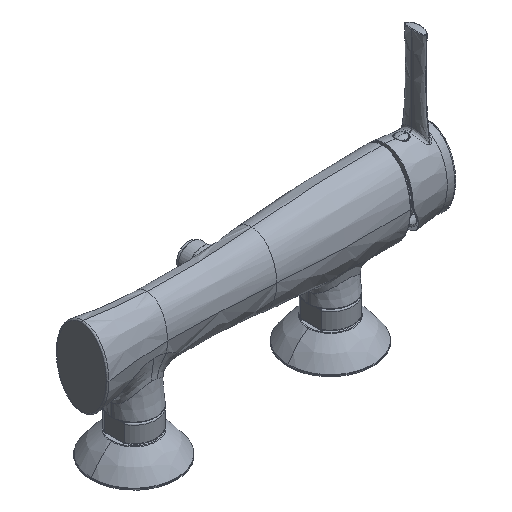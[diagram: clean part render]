
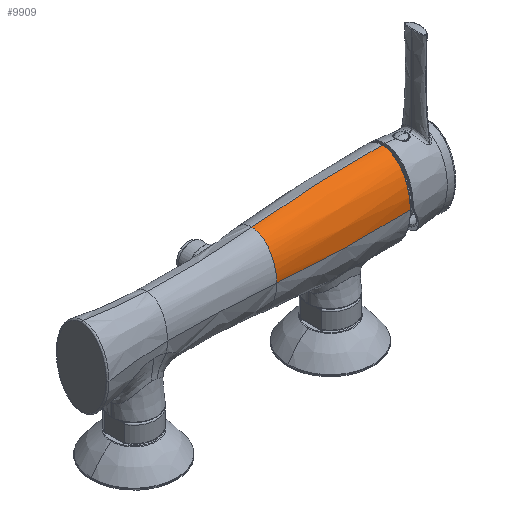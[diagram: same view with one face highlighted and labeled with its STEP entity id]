
A CAD part, isometric view. The second image highlights one B-rep face of the part: STEP entity #9909.
In plain terms, the highlighted free-form (B-spline) face has degree [3, 3] with [7, 5] control points.
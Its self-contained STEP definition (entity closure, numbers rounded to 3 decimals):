
#1167=CARTESIAN_POINT('',(114.518,-21.518,
0.));
#1509=CARTESIAN_POINT('',(64.928,0.,31.293));
#1510=CARTESIAN_POINT('',(81.442,0.,32.043));
#1511=CARTESIAN_POINT('',(97.98,0.,
32.282));
#1512=CARTESIAN_POINT('',(114.508,0.,
32.008));
#1514=CARTESIAN_POINT('',(64.928,0.,31.293));
#1515=CARTESIAN_POINT('',(48.25,0.,30.535));
#1516=CARTESIAN_POINT('',(31.596,0.,29.255));
#1517=CARTESIAN_POINT('',(15.,0.,27.456));
#1533=CARTESIAN_POINT('',(114.518,-21.518,
0.));
#1534=CARTESIAN_POINT('',(114.518,-21.518,
0.457));
#1535=CARTESIAN_POINT('',(114.518,-21.505,1.373));
#1536=CARTESIAN_POINT('',(114.518,-21.444,2.75));
#1537=CARTESIAN_POINT('',(114.518,-21.344,4.124));
#1538=CARTESIAN_POINT('',(114.518,-21.204,5.487));
#1539=CARTESIAN_POINT('',(114.517,-21.026,6.836));
#1540=CARTESIAN_POINT('',(114.517,-20.811,8.164));
#1541=CARTESIAN_POINT('',(114.517,-20.56,9.465));
#1542=CARTESIAN_POINT('',(114.516,-20.277,10.734));
#1543=CARTESIAN_POINT('',(114.515,-19.961,11.971));
#1544=CARTESIAN_POINT('',(114.515,-19.615,13.175));
#1545=CARTESIAN_POINT('',(114.514,-19.24,14.344));
#1546=CARTESIAN_POINT('',(114.514,-18.838,15.477));
#1547=CARTESIAN_POINT('',(114.513,-18.411,16.574));
#1548=CARTESIAN_POINT('',(114.513,-17.961,17.631));
#1549=CARTESIAN_POINT('',(114.512,-17.49,18.648));
#1550=CARTESIAN_POINT('',(114.512,-17.002,19.622));
#1551=CARTESIAN_POINT('',(114.511,-16.498,20.552));
#1552=CARTESIAN_POINT('',(114.511,-15.981,21.437));
#1553=CARTESIAN_POINT('',(114.51,-15.452,22.279));
#1554=CARTESIAN_POINT('',(114.51,-14.913,23.077));
#1555=CARTESIAN_POINT('',(114.509,-14.364,23.834));
#1556=CARTESIAN_POINT('',(114.509,-13.807,24.551));
#1557=CARTESIAN_POINT('',(114.509,-13.241,25.23));
#1558=CARTESIAN_POINT('',(114.509,-12.67,25.871));
#1559=CARTESIAN_POINT('',(114.508,-12.093,26.474));
#1560=CARTESIAN_POINT('',(114.508,-11.513,27.04));
#1561=CARTESIAN_POINT('',(114.508,-10.931,27.57));
#1562=CARTESIAN_POINT('',(114.508,-10.348,28.064));
#1563=CARTESIAN_POINT('',(114.508,-9.766,28.522));
#1564=CARTESIAN_POINT('',(114.508,-9.186,28.946));
#1565=CARTESIAN_POINT('',(114.508,-8.608,29.338));
#1566=CARTESIAN_POINT('',(114.508,-8.029,29.699));
#1567=CARTESIAN_POINT('',(114.508,-7.451,30.03));
#1568=CARTESIAN_POINT('',(114.508,-6.872,30.334));
#1569=CARTESIAN_POINT('',(114.508,-6.294,30.61));
#1570=CARTESIAN_POINT('',(114.508,-5.716,30.86));
#1571=CARTESIAN_POINT('',(114.508,-5.138,31.084));
#1572=CARTESIAN_POINT('',(114.508,-4.56,31.282));
#1573=CARTESIAN_POINT('',(114.508,-3.984,31.456));
#1574=CARTESIAN_POINT('',(114.508,-3.41,31.605));
#1575=CARTESIAN_POINT('',(114.508,-2.836,31.731));
#1576=CARTESIAN_POINT('',(114.508,-2.265,31.833));
#1577=CARTESIAN_POINT('',(114.508,-1.695,31.912));
#1578=CARTESIAN_POINT('',(114.508,-1.128,31.968));
#1579=CARTESIAN_POINT('',(114.508,-0.563,
32.001));
#1580=CARTESIAN_POINT('',(114.508,-0.187,
32.008));
#1581=CARTESIAN_POINT('',(114.508,0.,
32.008));
#1583=CARTESIAN_POINT('',(15.,-18.997,0.));
#1584=CARTESIAN_POINT('',(31.621,-20.457,0.));
#1585=CARTESIAN_POINT('',(64.79,-22.325,
0.));
#1586=CARTESIAN_POINT('',(98.008,-22.128,
0.));
#1587=CARTESIAN_POINT('',(114.518,-21.518,
0.));
#1589=CARTESIAN_POINT('',(15.,0.,27.456));
#1590=CARTESIAN_POINT('',(15.,-2.782,27.456));
#1591=CARTESIAN_POINT('',(15.,-7.939,25.74));
#1592=CARTESIAN_POINT('',(15.,-14.02,19.305));
#1593=CARTESIAN_POINT('',(15.,-18.014,10.296));
#1594=CARTESIAN_POINT('',(15.,-18.997,3.432));
#1595=CARTESIAN_POINT('',(15.,-18.997,0.));
#1602=CARTESIAN_POINT('',(15.,-18.997,0.));
#1664=CARTESIAN_POINT('',(15.,0.,27.456));
#7944=VERTEX_POINT('',#1602);
#7946=VERTEX_POINT('',#1664);
#7970=VERTEX_POINT('',#1514);
#7986=VERTEX_POINT('',#1167);
#7989=VERTEX_POINT('',#1581);
#9864=CARTESIAN_POINT('',(115.515,0.37,31.986));
#9865=CARTESIAN_POINT('',(98.651,0.375,32.287));
#9866=CARTESIAN_POINT('',(64.742,0.391,31.818));
#9867=CARTESIAN_POINT('',(30.933,0.384,29.199));
#9868=CARTESIAN_POINT('',(14.009,0.366,27.343));
#9869=CARTESIAN_POINT('',(115.514,-2.566,32.062));
#9870=CARTESIAN_POINT('',(98.654,-2.603,32.366));
#9871=CARTESIAN_POINT('',(64.75,-2.712,31.902));
#9872=CARTESIAN_POINT('',(30.932,-2.667,29.281));
#9873=CARTESIAN_POINT('',(14.009,-2.549,27.422));
#9874=CARTESIAN_POINT('',(115.514,-8.333,30.431));
#9875=CARTESIAN_POINT('',(98.66,-8.474,30.667));
#9876=CARTESIAN_POINT('',(64.764,-8.681,30.103));
#9877=CARTESIAN_POINT('',(30.933,-8.287,27.518));
#9878=CARTESIAN_POINT('',(14.009,-7.824,25.73));
#9879=CARTESIAN_POINT('',(115.514,-15.588,23.213));
#9880=CARTESIAN_POINT('',(98.667,-15.936,23.323));
#9881=CARTESIAN_POINT('',(64.779,-16.127,22.723));
#9882=CARTESIAN_POINT('',(30.944,-14.968,20.619));
#9883=CARTESIAN_POINT('',(14.009,-13.961,19.224));
#9884=CARTESIAN_POINT('',(115.514,-20.417,12.444));
#9885=CARTESIAN_POINT('',(98.671,-20.979,12.475));
#9886=CARTESIAN_POINT('',(64.788,-21.169,12.088));
#9887=CARTESIAN_POINT('',(30.955,-19.389,10.911));
#9888=CARTESIAN_POINT('',(14.008,-17.977,10.15));
#9889=CARTESIAN_POINT('',(115.514,-21.518,3.905));
#9890=CARTESIAN_POINT('',(98.672,-22.164,3.915));
#9891=CARTESIAN_POINT('',(64.79,-22.387,3.794));
#9892=CARTESIAN_POINT('',(30.958,-20.455,3.425));
#9893=CARTESIAN_POINT('',(14.008,-18.942,3.186));
#9894=CARTESIAN_POINT('',(115.514,-21.479,
-0.424));
#9895=CARTESIAN_POINT('',(98.672,-22.122,
-0.425));
#9896=CARTESIAN_POINT('',(64.79,-22.344,
-0.412));
#9897=CARTESIAN_POINT('',(30.958,-20.417,
-0.372));
#9898=CARTESIAN_POINT('',(14.008,-18.908,
-0.346));
#9899=B_SPLINE_SURFACE_WITH_KNOTS('',3,3,((#9864,#9865,#9866,#9867,#9868),
(#9869,#9870,#9871,#9872,#9873),(#9874,#9875,#9876,#9877,#9878),(#9879,#9880,
#9881,#9882,#9883),(#9884,#9885,#9886,#9887,#9888),(#9889,#9890,#9891,#9892,
#9893),(#9894,#9895,#9896,#9897,#9898)),.UNSPECIFIED.,.F.,.F.,.F.,(4,1,1,1,4),
(4,1,4),(-0.005,0.125,0.25,0.375,0.504),(
-0.002,0.217,0.439),.UNSPECIFIED.);
#9901=ORIENTED_EDGE('',*,*,#9900,.F.);
#9902=ORIENTED_EDGE('',*,*,#9616,.F.);
#9904=ORIENTED_EDGE('',*,*,#9903,.F.);
#9905=ORIENTED_EDGE('',*,*,#9856,.F.);
#9906=ORIENTED_EDGE('',*,*,#9854,.T.);
#9907=EDGE_LOOP('',(#9901,#9902,#9904,#9905,#9906));
#9908=FACE_OUTER_BOUND('',#9907,.F.);
#9909=ADVANCED_FACE('',(#9908),#9899,.F.);
#1513=B_SPLINE_CURVE_WITH_KNOTS('',3,(#1509,#1510,#1511,#1512),.UNSPECIFIED.,
.F.,.F.,(4,4),(0.,1.),.UNSPECIFIED.);
#1518=B_SPLINE_CURVE_WITH_KNOTS('',3,(#1514,#1515,#1516,#1517),.UNSPECIFIED.,
.F.,.F.,(4,4),(0.,1.),.UNSPECIFIED.);
#1582=B_SPLINE_CURVE_WITH_KNOTS('',3,(#1533,#1534,#1535,#1536,#1537,#1538,#1539,
#1540,#1541,#1542,#1543,#1544,#1545,#1546,#1547,#1548,#1549,#1550,#1551,#1552,
#1553,#1554,#1555,#1556,#1557,#1558,#1559,#1560,#1561,#1562,#1563,#1564,#1565,
#1566,#1567,#1568,#1569,#1570,#1571,#1572,#1573,#1574,#1575,#1576,#1577,#1578,
#1579,#1580,#1581),.UNSPECIFIED.,.F.,.F.,(4,1,1,1,1,1,1,1,1,1,1,1,1,1,1,1,1,1,1,
1,1,1,1,1,1,1,1,1,1,1,1,1,1,1,1,1,1,1,1,1,1,1,1,1,1,1,4),(0.,
0.022,0.043,0.065,0.087,
0.109,0.13,0.152,0.174,
0.196,0.217,0.239,0.261,
0.283,0.304,0.326,0.348,
0.37,0.391,0.413,0.435,
0.457,0.478,0.5,0.522,0.543,
0.565,0.587,0.609,0.63,
0.652,0.674,0.696,0.717,
0.739,0.761,0.783,0.804,
0.826,0.848,0.87,0.891,
0.913,0.935,0.957,0.978,1.),
.UNSPECIFIED.);
#1588=B_SPLINE_CURVE_WITH_KNOTS('',3,(#1583,#1584,#1585,#1586,#1587),
.UNSPECIFIED.,.F.,.F.,(4,1,4),(0.,0.502,1.),.UNSPECIFIED.);
#1596=B_SPLINE_CURVE_WITH_KNOTS('',3,(#1589,#1590,#1591,#1592,#1593,#1594,
#1595),.UNSPECIFIED.,.F.,.F.,(4,1,1,1,4),(0.,0.25,0.5,0.75,1.),
.UNSPECIFIED.);
#9616=EDGE_CURVE('',#7944,#7986,#1588,.T.);
#9854=EDGE_CURVE('',#7970,#7989,#1513,.T.);
#9856=EDGE_CURVE('',#7970,#7946,#1518,.T.);
#9900=EDGE_CURVE('',#7986,#7989,#1582,.T.);
#9903=EDGE_CURVE('',#7946,#7944,#1596,.T.);
